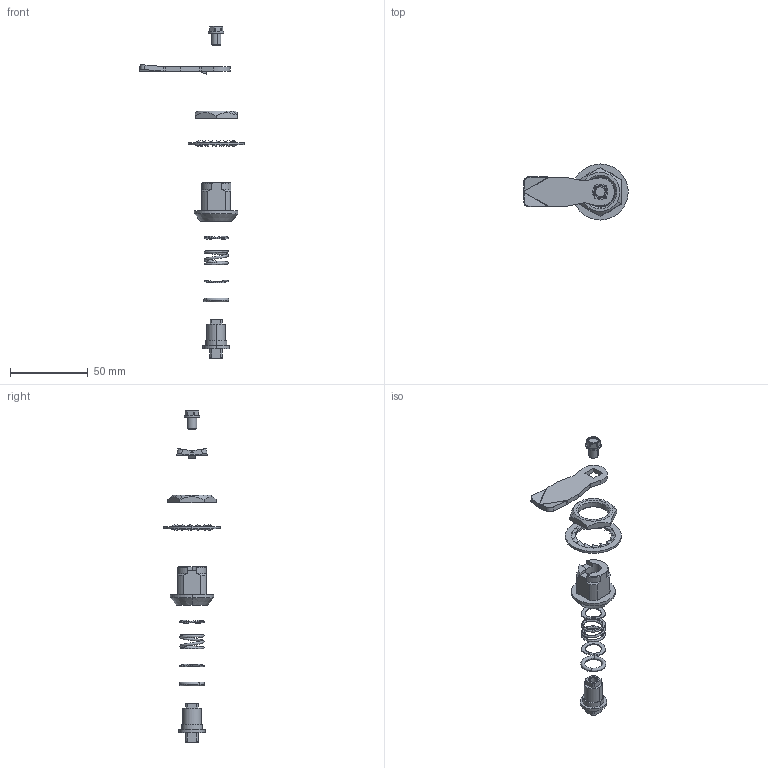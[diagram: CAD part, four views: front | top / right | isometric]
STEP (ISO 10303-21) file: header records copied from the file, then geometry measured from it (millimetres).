
FILE_DESCRIPTION (( 'STEP AP214' ), '1' );
FILE_NAME ('SP M22.STEP', '2010-11-26T06:36:03', ( 'Techniczny' ), ( 'RST Roztocze' ), 'SwSTEP 2.0', 'SolidWorks 2010', '' );
FILE_SCHEMA (( 'AUTOMOTIVE_DESIGN' ));
Length unit declared in the file: millimetre
Products named in the file (10): 2.M22-Kw8-4-SP-Cr.05.00.00; Oring 11,3x2,4; sruba M6; M22-R.00.00.05; 1C.J-10018.00.00.00; podkladka zabezpieczaj¹ca DIN); M22.03.00.00; 2.M22-Kw8-4-SP-Cr.01.05.00; SP M22; 2.M22-Kw8-4-SP-Cr.02.02.00
Assembly tree (10 placements, depth 2):
  SP M22
    M22.03.00.00  x2
    2.M22-Kw8-4-SP-Cr.01.05.00
    Oring 11,3x2,4
    2.M22-Kw8-4-SP-Cr.02.02.00
    podkladka zabezpieczaj¹ca DIN)
    M22-R.00.00.05
    sruba M6
    2.M22-Kw8-4-SP-Cr.05.00.00
    1C.J-10018.00.00.00
Bounding box: 67.11 x 36 x 213.36 mm (x, y, z)
Volume: 12782.7 mm3; surface area: 12520.5 mm2
Topology: 10 solids, 10 shells, 291 faces, 749 edges, 485 vertices
Faces by surface type: plane 128, cylinder 76, bspline 56, cone 27, torus 4
Entity records: 14172 total; most frequent: CARTESIAN_POINT 7095, ORIENTED_EDGE 1446, DIRECTION 1260, EDGE_CURVE 723, VERTEX_POINT 469, LINE 428, VECTOR 428, AXIS2_PLACEMENT_3D 416
